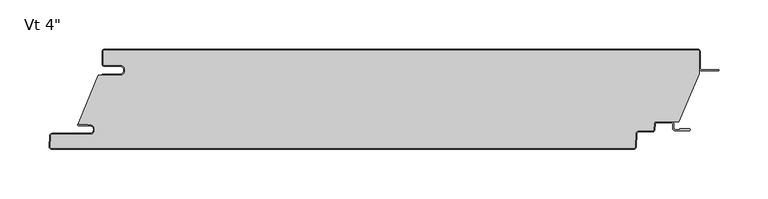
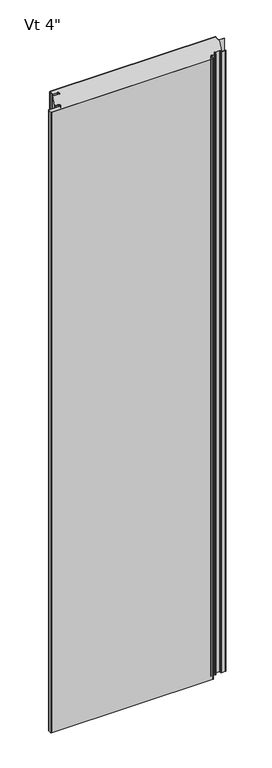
"""IFC4 building model written with IfcOpenShell, lengths in millimetres: plate geometry."""

from ifc_helpers import new_model, si_unit, point, frame, frame_2d, origin, origin_with_axes, place, context, project, spatial, polyline, circle_curve, ellipse_curve, trimmed, segment, composite_curve, outline, extrude, source, transform, mapped, element, save
from ifc_brep_helpers import plane_surface, cylinder_surface, revolved_surface, extruded_surface, advanced_brep


def plate_a71e47d3(model_context):
    return source(origin(), model_context, "Body", "SolidModel", [
        extrude(outline(composite_curve([segment(polyline([(-285.74375, -16.4625), (-301.61875, -16.4625)]), True, "CONTINUOUS"), segment(trimmed(circle_curve(frame_2d((-301.61875, -15.08125)), 1.38125), [point((-301.61875, -16.4625))], [point((-303.0, -15.08125))], False, "CARTESIAN"), True, "CONTINUOUS"), segment(polyline([(-303.0, -15.08125), (-303.0, -2.38125)]), True, "CONTINUOUS"), segment(trimmed(circle_curve(frame_2d((-301.61875, -2.38125)), 1.38125), [point((-303.0, -2.38125))], [point((-301.61875, -1.0))], False, "CARTESIAN"), True, "CONTINUOUS"), segment(polyline([(-301.61875, -1.0), (301.63125, -1.0)]), True, "CONTINUOUS"), segment(trimmed(circle_curve(frame_2d((301.63125, -2.38125)), 1.38125), [point((301.63125, -1.0))], [point((303.0125, -2.38125))], False, "CARTESIAN"), True, "CONTINUOUS"), segment(polyline([(303.0125, -2.38125), (303.0125, -24.9057308), (282.1955434, -73.6125), (259.7540783, -73.6125)]), True, "CONTINUOUS"), segment(trimmed(circle_curve(frame_2d((259.7540783, -76.2)), 2.5875), [point((259.7540783, -73.6125))], [point((257.1701244, -76.0645807))], True, "CARTESIAN"), True, "CONTINUOUS"), segment(polyline([(257.1701244, -76.0645807), (256.8680481, -81.828539)]), True, "CONTINUOUS"), segment(trimmed(circle_curve(frame_2d((255.4886911, -81.75625)), 1.38125), [point((256.8680481, -81.828539))], [point((255.4886911, -83.1375))], False, "CARTESIAN"), True, "CONTINUOUS"), segment(polyline([(255.4886911, -83.1375), (241.3323847, -83.1375)]), True, "CONTINUOUS"), segment(trimmed(circle_curve(frame_2d((241.3323847, -85.725)), 2.5875), [point((241.3323847, -83.1375))], [point((238.7484307, -85.5895807))], True, "CARTESIAN"), True, "CONTINUOUS"), segment(polyline([(238.7484307, -85.5895807), (238.0303677, -99.291039)]), True, "CONTINUOUS"), segment(trimmed(circle_curve(frame_2d((236.6510107, -99.21875)), 1.38125), [point((238.0303677, -99.291039))], [point((236.6510107, -100.6))], False, "CARTESIAN"), True, "CONTINUOUS"), segment(polyline([(236.6510107, -100.6), (-355.4799535, -100.6)]), True, "CONTINUOUS"), segment(trimmed(circle_curve(frame_2d((-355.4799535, -99.21875)), 1.38125), [point((-355.4799535, -100.6))], [point((-356.8593106, -99.146461))], False, "CARTESIAN"), True, "CONTINUOUS"), segment(polyline([(-356.8593106, -99.146461), (-356.2769291, -88.033961)]), True, "CONTINUOUS"), segment(trimmed(circle_curve(frame_2d((-354.8975721, -88.10625)), 1.38125), [point((-356.2769291, -88.033961))], [point((-354.8975721, -86.725))], False, "CARTESIAN"), True, "CONTINUOUS"), segment(polyline([(-354.8975721, -86.725), (-316.7142674, -86.725)]), True, "CONTINUOUS"), segment(trimmed(circle_curve(frame_2d((-316.7142674, -81.75625)), 4.96875), [point((-316.7142674, -86.725))], [point((-316.7142674, -76.7875))], True, "CARTESIAN"), True, "CONTINUOUS"), segment(polyline([(-316.7142674, -76.7875), (-318.3017674, -76.99375), (-318.3017674, -76.2), (-327.8125, -76.2), (-327.8125, -74.6157227), (-307.9260922, -26.4), (-285.74375, -26.4)]), True, "CONTINUOUS"), segment(trimmed(circle_curve(frame_2d((-285.74375, -21.43125)), 4.96875), [point((-285.74375, -26.4))], [point((-285.74375, -16.4625))], True, "CARTESIAN"), True, "CONTINUOUS")], self_intersect=False)), origin_with_axes(), (0.0, 0.0, 1.0), 2400.0),
        extrude(outline(composite_curve([segment(polyline([(-304.0, -25.4), (-285.74375, -25.4)]), True, "CONTINUOUS"), segment(trimmed(circle_curve(frame_2d((-285.74375, -21.43125)), 3.96875), [point((-285.74375, -25.4))], [point((-285.74375, -17.4625))], True, "CARTESIAN"), True, "CONTINUOUS"), segment(polyline([(-285.74375, -17.4625), (-301.61875, -17.4625)]), True, "CONTINUOUS"), segment(trimmed(circle_curve(frame_2d((-301.61875, -15.08125)), 2.38125), [point((-301.61875, -17.4625))], [point((-304.0, -15.08125))], False, "CARTESIAN"), True, "CONTINUOUS"), segment(polyline([(-304.0, -15.08125), (-304.0, -2.38125)]), True, "CONTINUOUS"), segment(trimmed(circle_curve(frame_2d((-301.61875, -2.38125)), 2.38125), [point((-304.0, -2.38125))], [point((-301.61875, 0.0))], False, "CARTESIAN"), True, "CONTINUOUS"), segment(polyline([(-301.61875, 0.0), (301.63125, 0.0)]), True, "CONTINUOUS"), segment(trimmed(circle_curve(frame_2d((301.63125, -2.38125)), 2.38125), [point((301.63125, 0.0))], [point((304.0125, -2.38125))], False, "CARTESIAN"), True, "CONTINUOUS"), segment(polyline([(304.0125, -2.38125), (304.0125, -19.446875)]), True, "CONTINUOUS"), segment(trimmed(circle_curve(frame_2d((305.6, -19.446875)), 1.5875), [point((304.0125, -19.446875))], [point((305.6, -21.034375))], True, "CARTESIAN"), True, "CONTINUOUS"), segment(polyline([(305.6, -21.034375), (323.0625, -21.034375), (323.0625, -22.034375), (305.6, -22.034375)]), True, "CONTINUOUS"), segment(trimmed(circle_curve(frame_2d((305.6, -19.446875)), 2.5875), [point((305.6, -22.034375))], [point((303.0125, -19.446875))], False, "CARTESIAN"), True, "CONTINUOUS"), segment(polyline([(303.0125, -19.446875), (303.0125, -2.38125)]), True, "CONTINUOUS"), segment(trimmed(circle_curve(frame_2d((301.63125, -2.38125)), 1.38125), [point((303.0125, -2.38125))], [point((301.63125, -1.0))], True, "CARTESIAN"), True, "CONTINUOUS"), segment(polyline([(301.63125, -1.0), (-301.61875, -1.0)]), True, "CONTINUOUS"), segment(trimmed(circle_curve(frame_2d((-301.61875, -2.38125)), 1.38125), [point((-301.61875, -1.0))], [point((-303.0, -2.38125))], True, "CARTESIAN"), True, "CONTINUOUS"), segment(polyline([(-303.0, -2.38125), (-303.0, -15.08125)]), True, "CONTINUOUS"), segment(trimmed(circle_curve(frame_2d((-301.61875, -15.08125)), 1.38125), [point((-303.0, -15.08125))], [point((-301.61875, -16.4625))], True, "CARTESIAN"), True, "CONTINUOUS"), segment(polyline([(-301.61875, -16.4625), (-285.74375, -16.4625)]), True, "CONTINUOUS"), segment(trimmed(circle_curve(frame_2d((-285.74375, -21.43125)), 4.96875), [point((-285.74375, -16.4625))], [point((-285.74375, -26.4))], False, "CARTESIAN"), True, "CONTINUOUS"), segment(polyline([(-285.74375, -26.4), (-304.0, -26.4), (-304.0, -25.4)]), True, "CONTINUOUS")], self_intersect=False)), origin_with_axes(), (0.0, 0.0, 1.0), 2400.0),
        advanced_brep(
        [(-328.0252049, -76.2, 2400.0), (-328.0252049, -77.7875, 2400.0), (-316.7142674, -77.7875, 2400.0), (-316.7142674, -85.725, 2400.0), (-354.8975721, -85.725, 2400.0), (-357.2755586, -87.981625, 2400.0), (-357.8579401, -99.094125, 2400.0), (-355.4799535, -101.6, 2400.0), (236.6510107, -101.6, 2400.0), (239.0289973, -99.343375, 2400.0), (239.7470603, -85.6419167, 2400.0), (241.3323847, -84.1375, 2400.0), (255.4886911, -84.1375, 2400.0), (257.8666776, -81.880875, 2400.0), (258.1687539, -76.1169167, 2400.0), (259.7540783, -74.6125, 2400.0), (274.6294826, -74.6125, 2400.0), (276.2169826, -76.2, 2400.0), (276.2169826, -80.3671875, 2400.0), (278.5982326, -82.7484375, 2400.0), (293.0898532, -82.7484375, 2400.0), (293.0898532, -80.9546875, 2400.0), (283.3607326, -80.9546875, 2400.0), (283.3607326, -81.7484375, 2400.0), (278.5982326, -81.7484375, 2400.0), (277.2169826, -80.3671875, 2400.0), (277.2169826, -76.2, 2400.0), (274.6294826, -73.6125, 2400.0), (259.7540783, -73.6125, 2400.0), (257.1701244, -76.0645807, 2400.0), (256.8680481, -81.828539, 2400.0), (255.4886911, -83.1375, 2400.0), (241.3323847, -83.1375, 2400.0), (238.7484307, -85.5895807, 2400.0), (238.0303677, -99.291039, 2400.0), (236.6510107, -100.6, 2400.0), (-355.4799535, -100.6, 2400.0), (-356.8593106, -99.146461, 2400.0), (-356.2769291, -88.033961, 2400.0), (-354.8975721, -86.725, 2400.0), (-316.7142674, -86.725, 2400.0), (-316.7142674, -76.7875, 2400.0), (-318.3017674, -76.99375, 2400.0), (-318.3017674, -76.2, 2400.0), (-328.0252049, -76.2, 0.0), (-318.3017674, -76.2, 0.0), (-318.3017674, -76.99375, 0.0), (-316.7142674, -76.7875, 0.0), (-316.7142674, -86.725, 0.0), (-354.8975721, -86.725, 0.0), (-356.2769291, -88.033961, 0.0), (-356.8593106, -99.146461, 0.0), (-355.4799535, -100.6, 0.0), (236.6510107, -100.6, 0.0), (238.0303677, -99.291039, 0.0), (238.7484307, -85.5895807, 0.0), (241.3323847, -83.1375, 0.0), (255.4886911, -83.1375, 0.0), (256.8680481, -81.828539, 0.0), (257.1701244, -76.0645807, 0.0), (259.7540783, -73.6125, 0.0), (274.6294826, -73.6125, 0.0), (277.2169826, -76.2, 0.0), (277.2169826, -80.3671875, 0.0), (278.5982326, -81.7484375, 0.0), (283.3607326, -81.7484375, 0.0), (283.3607326, -80.9546875, 0.0), (293.0898532, -80.9546875, 0.0), (293.0898532, -82.7484375, 0.0), (278.5982326, -82.7484375, 0.0), (276.2169826, -80.3671875, 0.0), (276.2169826, -76.2, 0.0), (274.6294826, -74.6125, 0.0), (259.7540783, -74.6125, 0.0), (258.1687539, -76.1169167, 0.0), (257.8666776, -81.880875, 0.0), (255.4886911, -84.1375, 0.0), (241.3323847, -84.1375, 0.0), (239.7470603, -85.6419167, 0.0), (239.0289973, -99.343375, 0.0), (236.6510107, -101.6, 0.0), (-355.4799535, -101.6, 0.0), (-357.8579401, -99.094125, 0.0), (-357.2755586, -87.981625, 0.0), (-354.8975721, -85.725, 0.0), (-316.7142674, -85.725, 0.0), (-316.7142674, -77.7875, 0.0), (-328.0252049, -77.7875, 0.0)],
        [
            (0, 1, circle_curve(frame((-328.0252049, -76.99375, 2400.0), z_axis=(0.0, 0.0, 1.0), x_axis=(1.0, 0.0, 0.0)), 0.79375)),
            (1, 2),
            (2, 3, circle_curve(frame((-316.7142674, -81.75625, 2400.0), z_axis=(0.0, 0.0, -1.0), x_axis=(1.0, 0.0, 0.0)), 3.96875)),
            (3, 4),
            (4, 5, circle_curve(frame((-354.8975721, -88.10625, 2400.0), z_axis=(0.0, 0.0, 1.0), x_axis=(1.0, 0.0, 0.0)), 2.38125)),
            (5, 6),
            (6, 7, circle_curve(frame((-355.4799535, -99.21875, 2400.0), z_axis=(0.0, 0.0, 1.0), x_axis=(1.0, 0.0, 0.0)), 2.38125)),
            (7, 8),
            (8, 9, circle_curve(frame((236.6510107, -99.21875, 2400.0), z_axis=(0.0, 0.0, 1.0), x_axis=(1.0, 0.0, 0.0)), 2.38125)),
            (9, 10),
            (10, 11, circle_curve(frame((241.3323847, -85.725, 2400.0), z_axis=(0.0, 0.0, -1.0), x_axis=(1.0, 0.0, 0.0)), 1.5875)),
            (11, 12),
            (12, 13, circle_curve(frame((255.4886911, -81.75625, 2400.0), z_axis=(0.0, 0.0, 1.0), x_axis=(1.0, 0.0, 0.0)), 2.38125)),
            (13, 14),
            (14, 15, circle_curve(frame((259.7540783, -76.2, 2400.0), z_axis=(0.0, 0.0, -1.0), x_axis=(1.0, 0.0, 0.0)), 1.5875)),
            (15, 16),
            (16, 17, circle_curve(frame((274.6294826, -76.2, 2400.0), z_axis=(0.0, 0.0, -1.0), x_axis=(1.0, 0.0, 0.0)), 1.5875)),
            (17, 18),
            (18, 19, circle_curve(frame((278.5982326, -80.3671875, 2400.0), z_axis=(0.0, 0.0, 1.0), x_axis=(1.0, 0.0, 0.0)), 2.38125)),
            (19, 20),
            (20, 21, ellipse_curve(frame((293.0898532, -81.8515625, 2400.0), z_axis=(0.0, 0.0, 1.0), x_axis=(0.0, 1.0, 0.0)), 0.896875, 0.7852275)),
            (21, 22),
            (22, 23),
            (23, 24),
            (24, 25, circle_curve(frame((278.5982326, -80.3671875, 2400.0), z_axis=(0.0, 0.0, -1.0), x_axis=(1.0, 0.0, 0.0)), 1.38125)),
            (25, 26),
            (26, 27, circle_curve(frame((274.6294826, -76.2, 2400.0), z_axis=(0.0, 0.0, 1.0), x_axis=(1.0, 0.0, 0.0)), 2.5875)),
            (27, 28),
            (28, 29, circle_curve(frame((259.7540783, -76.2, 2400.0), z_axis=(0.0, 0.0, 1.0), x_axis=(1.0, 0.0, 0.0)), 2.5875)),
            (29, 30),
            (30, 31, circle_curve(frame((255.4886911, -81.75625, 2400.0), z_axis=(0.0, 0.0, -1.0), x_axis=(1.0, 0.0, 0.0)), 1.38125)),
            (31, 32),
            (32, 33, circle_curve(frame((241.3323847, -85.725, 2400.0), z_axis=(0.0, 0.0, 1.0), x_axis=(1.0, 0.0, 0.0)), 2.5875)),
            (33, 34),
            (34, 35, circle_curve(frame((236.6510107, -99.21875, 2400.0), z_axis=(0.0, 0.0, -1.0), x_axis=(1.0, 0.0, 0.0)), 1.38125)),
            (35, 36),
            (36, 37, circle_curve(frame((-355.4799535, -99.21875, 2400.0), z_axis=(0.0, 0.0, -1.0), x_axis=(1.0, 0.0, 0.0)), 1.38125)),
            (37, 38),
            (38, 39, circle_curve(frame((-354.8975721, -88.10625, 2400.0), z_axis=(0.0, 0.0, -1.0), x_axis=(1.0, 0.0, 0.0)), 1.38125)),
            (39, 40),
            (40, 41, circle_curve(frame((-316.7142674, -81.75625, 2400.0), z_axis=(0.0, 0.0, 1.0), x_axis=(1.0, 0.0, 0.0)), 4.96875)),
            (41, 42),
            (42, 43),
            (43, 0),
            (44, 45),
            (45, 46),
            (46, 47),
            (47, 48, circle_curve(frame((-316.7142674, -81.75625, 0.0), z_axis=(0.0, 0.0, -1.0), x_axis=(1.0, 0.0, 0.0)), 4.96875)),
            (48, 49),
            (49, 50, circle_curve(frame((-354.8975721, -88.10625, 0.0), z_axis=(0.0, 0.0, 1.0), x_axis=(1.0, 0.0, 0.0)), 1.38125)),
            (50, 51),
            (51, 52, circle_curve(frame((-355.4799535, -99.21875, 0.0), z_axis=(0.0, 0.0, 1.0), x_axis=(1.0, 0.0, 0.0)), 1.38125)),
            (52, 53),
            (53, 54, circle_curve(frame((236.6510107, -99.21875, 0.0), z_axis=(0.0, 0.0, 1.0), x_axis=(1.0, 0.0, 0.0)), 1.38125)),
            (54, 55),
            (55, 56, circle_curve(frame((241.3323847, -85.725, 0.0), z_axis=(0.0, 0.0, -1.0), x_axis=(1.0, 0.0, 0.0)), 2.5875)),
            (56, 57),
            (57, 58, circle_curve(frame((255.4886911, -81.75625, 0.0), z_axis=(0.0, 0.0, 1.0), x_axis=(1.0, 0.0, 0.0)), 1.38125)),
            (58, 59),
            (59, 60, circle_curve(frame((259.7540783, -76.2, 0.0), z_axis=(0.0, 0.0, -1.0), x_axis=(1.0, 0.0, 0.0)), 2.5875)),
            (60, 61),
            (61, 62, circle_curve(frame((274.6294826, -76.2, 0.0), z_axis=(0.0, 0.0, -1.0), x_axis=(1.0, 0.0, 0.0)), 2.5875)),
            (62, 63),
            (63, 64, circle_curve(frame((278.5982326, -80.3671875, 0.0), z_axis=(0.0, 0.0, 1.0), x_axis=(1.0, 0.0, 0.0)), 1.38125)),
            (64, 65),
            (65, 66),
            (66, 67),
            (67, 68, ellipse_curve(frame((293.0898532, -81.8515625, 0.0), z_axis=(0.0, 0.0, -1.0), x_axis=(0.0, 1.0, 0.0)), 0.896875, 0.7852275)),
            (68, 69),
            (69, 70, circle_curve(frame((278.5982326, -80.3671875, 0.0), z_axis=(0.0, 0.0, -1.0), x_axis=(1.0, 0.0, 0.0)), 2.38125)),
            (70, 71),
            (71, 72, circle_curve(frame((274.6294826, -76.2, 0.0), z_axis=(0.0, 0.0, 1.0), x_axis=(1.0, 0.0, 0.0)), 1.5875)),
            (72, 73),
            (73, 74, circle_curve(frame((259.7540783, -76.2, 0.0), z_axis=(0.0, 0.0, 1.0), x_axis=(1.0, 0.0, 0.0)), 1.5875)),
            (74, 75),
            (75, 76, circle_curve(frame((255.4886911, -81.75625, 0.0), z_axis=(0.0, 0.0, -1.0), x_axis=(1.0, 0.0, 0.0)), 2.38125)),
            (76, 77),
            (77, 78, circle_curve(frame((241.3323847, -85.725, 0.0), z_axis=(0.0, 0.0, 1.0), x_axis=(1.0, 0.0, 0.0)), 1.5875)),
            (78, 79),
            (79, 80, circle_curve(frame((236.6510107, -99.21875, 0.0), z_axis=(0.0, 0.0, -1.0), x_axis=(1.0, 0.0, 0.0)), 2.38125)),
            (80, 81),
            (81, 82, circle_curve(frame((-355.4799535, -99.21875, 0.0), z_axis=(0.0, 0.0, -1.0), x_axis=(1.0, 0.0, 0.0)), 2.38125)),
            (82, 83),
            (83, 84, circle_curve(frame((-354.8975721, -88.10625, 0.0), z_axis=(0.0, 0.0, -1.0), x_axis=(1.0, 0.0, 0.0)), 2.38125)),
            (84, 85),
            (85, 86, circle_curve(frame((-316.7142674, -81.75625, 0.0), z_axis=(0.0, 0.0, 1.0), x_axis=(1.0, 0.0, 0.0)), 3.96875)),
            (86, 87),
            (87, 44, circle_curve(frame((-328.0252049, -76.99375, 0.0), z_axis=(0.0, 0.0, -1.0), x_axis=(1.0, 0.0, 0.0)), 0.79375)),
            (43, 45),
            (44, 0),
            (87, 1),
            (86, 2),
            (85, 3),
            (84, 4),
            (83, 5),
            (82, 6),
            (81, 7),
            (80, 8),
            (79, 9),
            (78, 10),
            (77, 11),
            (76, 12),
            (75, 13),
            (74, 14),
            (73, 15),
            (38, 50),
            (49, 39),
            (37, 51),
            (36, 52),
            (35, 53),
            (34, 54),
            (33, 55),
            (32, 56),
            (31, 57),
            (30, 58),
            (29, 59),
            (28, 60),
            (23, 65),
            (64, 24),
            (63, 25),
            (62, 26),
            (72, 16),
            (71, 17),
            (70, 18),
            (69, 19),
            (68, 20),
            (27, 61),
            (48, 40),
            (47, 41),
            (42, 46),
            (22, 66),
            (21, 67),
        ],
        [
            plane_surface(frame((0.00625, -101.6, 2400.0), z_axis=(0.0, 0.0, 1.0), x_axis=(0.0, -1.0, 0.0))),
            plane_surface(frame((0.00625, -101.6, 0.0), z_axis=(0.0, 0.0, -1.0), x_axis=(0.0, -1.0, 0.0))),
            plane_surface(frame((-328.0252049, -76.2, 2400.0), z_axis=(0.0, 1.0, 0.0), x_axis=(0.0, 0.0, -1.0))),
            cylinder_surface(frame((-328.0252049, -76.99375, 2400.0), z_axis=(0.0, 0.0, 1.0), x_axis=(1.0, 0.0, 0.0)), 0.79375),
            plane_surface(frame((-316.7142674, -77.7875, 2400.0), z_axis=(0.0, -1.0, 0.0), x_axis=(0.0, 0.0, -1.0))),
            revolved_surface(polyline([(-312.7455174, -81.75625, 0.0), (-312.7455174, -81.75625, 2400.0)]), (-316.7142674, -81.75625, 2400.0), (0.0, 0.0, -1.0)),
            plane_surface(frame((-354.8975721, -85.725, 2400.0), z_axis=(0.0, 1.0, 0.0), x_axis=(0.0, 0.0, -1.0))),
            cylinder_surface(frame((-354.8975721, -88.10625, 2400.0), z_axis=(0.0, 0.0, 1.0), x_axis=(1.0, 0.0, 0.0)), 2.38125),
            plane_surface(frame((-357.8579401, -99.094125, 2400.0), z_axis=(-0.9986295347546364, 0.05233595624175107, 0.0), x_axis=(0.0, 0.0, -1.0))),
            cylinder_surface(frame((-355.4799535, -99.21875, 2400.0), z_axis=(0.0, 0.0, 1.0), x_axis=(1.0, 0.0, 0.0)), 2.38125),
            plane_surface(frame((236.6510107, -101.6, 2400.0), z_axis=(0.0, -1.0, 0.0), x_axis=(0.0, 0.0, -1.0))),
            cylinder_surface(frame((236.6510107, -99.21875, 2400.0), z_axis=(0.0, 0.0, 1.0), x_axis=(1.0, 0.0, 0.0)), 2.38125),
            plane_surface(frame((239.7470603, -85.6419167, 2400.0), z_axis=(0.9986295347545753, -0.05233595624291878, 0.0), x_axis=(0.0, 0.0, -1.0))),
            revolved_surface(polyline([(242.9198847, -85.725, 0.0), (242.9198847, -85.725, 2400.0)]), (241.3323847, -85.725, 2400.0), (0.0, 0.0, -1.0)),
            plane_surface(frame((255.4886911, -84.1375, 2400.0), z_axis=(0.0, -1.0, 0.0), x_axis=(0.0, 0.0, -1.0))),
            cylinder_surface(frame((255.4886911, -81.75625, 2400.0), z_axis=(0.0, 0.0, 1.0), x_axis=(1.0, 0.0, 0.0)), 2.38125),
            plane_surface(frame((258.1687539, -76.1169167, 2400.0), z_axis=(0.9986295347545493, -0.052335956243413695, 0.0), x_axis=(0.0, 0.0, -1.0))),
            revolved_surface(polyline([(261.3415783, -76.2, 0.0), (261.3415783, -76.2, 2400.0)]), (259.7540783, -76.2, 2400.0), (0.0, 0.0, -1.0)),
            revolved_surface(polyline([(-353.51632209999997, -88.10625, 0.0), (-353.51632209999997, -88.10625, 2400.0)]), (-354.8975721, -88.10625, 2400.0), (0.0, 0.0, -1.0)),
            plane_surface(frame((-356.2769291, -88.033961, 2400.0), z_axis=(0.9986295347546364, -0.05233595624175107, 0.0), x_axis=(0.0, 0.0, -1.0))),
            revolved_surface(polyline([(-354.0987035, -99.21875, 0.0), (-354.0987035, -99.21875, 2400.0)]), (-355.4799535, -99.21875, 2400.0), (0.0, 0.0, -1.0)),
            plane_surface(frame((-355.4799535, -100.6, 2400.0), z_axis=(0.0, 1.0, 0.0), x_axis=(0.0, 0.0, -1.0))),
            revolved_surface(polyline([(238.0322607, -99.21875, 0.0), (238.0322607, -99.21875, 2400.0)]), (236.6510107, -99.21875, 2400.0), (0.0, 0.0, -1.0)),
            plane_surface(frame((238.0303677, -99.291039, 2400.0), z_axis=(-0.9986295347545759, 0.052335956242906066, 0.0), x_axis=(0.0, 0.0, -1.0))),
            cylinder_surface(frame((241.3323847, -85.725, 2400.0), z_axis=(0.0, 0.0, 1.0), x_axis=(1.0, 0.0, 0.0)), 2.5875),
            plane_surface(frame((241.3323847, -83.1375, 2400.0), z_axis=(0.0, 1.0, 0.0), x_axis=(0.0, 0.0, -1.0))),
            revolved_surface(polyline([(256.8699411, -81.75625, 0.0), (256.8699411, -81.75625, 2400.0)]), (255.4886911, -81.75625, 2400.0), (0.0, 0.0, -1.0)),
            plane_surface(frame((256.8680481, -81.828539, 2400.0), z_axis=(-0.998629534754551, 0.05233595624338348, 0.0), x_axis=(0.0, 0.0, -1.0))),
            cylinder_surface(frame((259.7540783, -76.2, 2400.0), z_axis=(0.0, 0.0, 1.0), x_axis=(1.0, 0.0, 0.0)), 2.5875),
            plane_surface(frame((278.5982326, -81.7484375, 2400.0), z_axis=(0.0, 1.0, 0.0), x_axis=(0.0, 0.0, -1.0))),
            revolved_surface(polyline([(279.97948260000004, -80.3671875, 0.0), (279.97948260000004, -80.3671875, 2400.0)]), (278.5982326, -80.3671875, 2400.0), (0.0, 0.0, -1.0)),
            plane_surface(frame((277.2169826, -76.2, 2400.0), z_axis=(1.0, 0.0, 0.0), x_axis=(0.0, 0.0, -1.0))),
            plane_surface(frame((274.6294826, -74.6125, 2400.0), z_axis=(0.0, -1.0, 0.0), x_axis=(0.0, 0.0, -1.0))),
            revolved_surface(polyline([(276.2169826, -76.2, 0.0), (276.2169826, -76.2, 2400.0)]), (274.6294826, -76.2, 2400.0), (0.0, 0.0, -1.0)),
            plane_surface(frame((276.2169826, -80.3671875, 2400.0), z_axis=(-1.0, 0.0, 0.0), x_axis=(0.0, 0.0, -1.0))),
            cylinder_surface(frame((278.5982326, -80.3671875, 2400.0), z_axis=(0.0, 0.0, 1.0), x_axis=(1.0, 0.0, 0.0)), 2.38125),
            plane_surface(frame((293.0898532, -82.7484375, 2400.0), z_axis=(0.0, -1.0, 0.0), x_axis=(0.0, 0.0, -1.0))),
            plane_surface(frame((259.7540783, -73.6125, 2400.0), z_axis=(0.0, 1.0, 0.0), x_axis=(0.0, 0.0, -1.0))),
            cylinder_surface(frame((274.6294826, -76.2, 2400.0), z_axis=(0.0, 0.0, 1.0), x_axis=(1.0, 0.0, 0.0)), 2.5875),
            plane_surface(frame((-316.7142674, -86.725, 2400.0), z_axis=(0.0, -1.0, 0.0), x_axis=(0.0, 0.0, -1.0))),
            cylinder_surface(frame((-316.7142674, -81.75625, 2400.0), z_axis=(0.0, 0.0, 1.0), x_axis=(1.0, 0.0, 0.0)), 4.96875),
            plane_surface(frame((-318.3017674, -76.2, 2400.0), z_axis=(1.0, 0.0, 0.0), x_axis=(0.0, 0.0, -1.0))),
            plane_surface(frame((-318.3017674, -76.99375, 2400.0), z_axis=(-0.12883844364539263, 0.9916655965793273, 0.0), x_axis=(0.0, 0.0, -1.0))),
            plane_surface(frame((283.3607326, -81.7484375, 2400.0), z_axis=(-1.0, 0.0, 0.0), x_axis=(0.0, 0.0, -1.0))),
            plane_surface(frame((283.3607326, -80.9546875, 2400.0), z_axis=(0.0, 1.0, 0.0), x_axis=(0.0, 0.0, -1.0))),
            extruded_surface(trimmed(ellipse_curve(frame((293.0898532, -81.8515625, 2400.0), z_axis=(0.0, 0.0, -1.0), x_axis=(0.0, 1.0, 0.0)), 0.896875, 0.7852275), [point((293.0898532, -80.9546875, 2400.0))], [point((293.0898532, -82.7484375, 2400.0))], True, "CARTESIAN"), (0.0, 0.0, -2400.0), 2400.0),
        ],
        [
            (0, [[1, 2, 3, 4, 5, 6, 7, 8, 9, 10, 11, 12, 13, 14, 15, 16, 17, 18, 19, 20, 21, 22, 23, 24, 25, 26, 27, 28, 29, 30, 31, 32, 33, 34, 35, 36, 37, 38, 39, 40, 41, 42, 43, 44]]),
            (1, [[45, 46, 47, 48, 49, 50, 51, 52, 53, 54, 55, 56, 57, 58, 59, 60, 61, 62, 63, 64, 65, 66, 67, 68, 69, 70, 71, 72, 73, 74, 75, 76, 77, 78, 79, 80, 81, 82, 83, 84, 85, 86, 87, 88]]),
            (2, [[89, -45, 90, -44]]),
            (3, [[-90, -88, 91, -1]]),
            (4, [[-91, -87, 92, -2]]),
            (5, [[-92, -86, 93, -3]]),
            (6, [[-93, -85, 94, -4]]),
            (7, [[-94, -84, 95, -5]]),
            (8, [[-95, -83, 96, -6]]),
            (9, [[-96, -82, 97, -7]]),
            (10, [[-97, -81, 98, -8]]),
            (11, [[-98, -80, 99, -9]]),
            (12, [[-99, -79, 100, -10]]),
            (13, [[-100, -78, 101, -11]]),
            (14, [[-101, -77, 102, -12]]),
            (15, [[-102, -76, 103, -13]]),
            (16, [[-103, -75, 104, -14]]),
            (17, [[-104, -74, 105, -15]]),
            (18, [[106, -50, 107, -39]]),
            (19, [[108, -51, -106, -38]]),
            (20, [[109, -52, -108, -37]]),
            (21, [[110, -53, -109, -36]]),
            (22, [[111, -54, -110, -35]]),
            (23, [[112, -55, -111, -34]]),
            (24, [[113, -56, -112, -33]]),
            (25, [[114, -57, -113, -32]]),
            (26, [[115, -58, -114, -31]]),
            (27, [[116, -59, -115, -30]]),
            (28, [[117, -60, -116, -29]]),
            (29, [[118, -65, 119, -24]]),
            (30, [[-119, -64, 120, -25]]),
            (31, [[-120, -63, 121, -26]]),
            (32, [[-105, -73, 122, -16]]),
            (33, [[-122, -72, 123, -17]]),
            (34, [[-123, -71, 124, -18]]),
            (35, [[-124, -70, 125, -19]]),
            (36, [[-125, -69, 126, -20]]),
            (37, [[127, -61, -117, -28]]),
            (38, [[-121, -62, -127, -27]]),
            (39, [[-107, -49, 128, -40]]),
            (40, [[-128, -48, 129, -41]]),
            (41, [[130, -46, -89, -43]]),
            (42, [[-129, -47, -130, -42]]),
            (43, [[131, -66, -118, -23]]),
            (44, [[132, -67, -131, -22]]),
            (45, [[-126, -68, -132, -21]]),
        ],
    ),
    ])


if __name__ == "__main__":
    model = new_model("IFC4")
    model_context = context("Model", 3, world=origin())
    ifc_project = project(units=[si_unit("LENGTHUNIT", "METRE", prefix="MILLI")], contexts=[model_context])
    site = spatial("IfcSite", under=ifc_project)
    building = spatial("IfcBuilding", under=site)
    placement = place(None, origin())
    plate_shape = plate_a71e47d3(model_context)
    element("IfcPlate", 1, ObjectType="KIP-24-DWHR-R19-CP-Vt-F : Vt 4\"", at=placement, inside=building, context=model_context, shape_type="MappedRepresentation", body=[
        mapped(plate_shape, transform((0.0, 0.0, 0.0), x_axis=(1.0, 0.0, 0.0), y_axis=(0.0, 1.0, 0.0), z_axis=(0.0, 0.0, 1.0))),
    ])
    save(model, "model.ifc")
